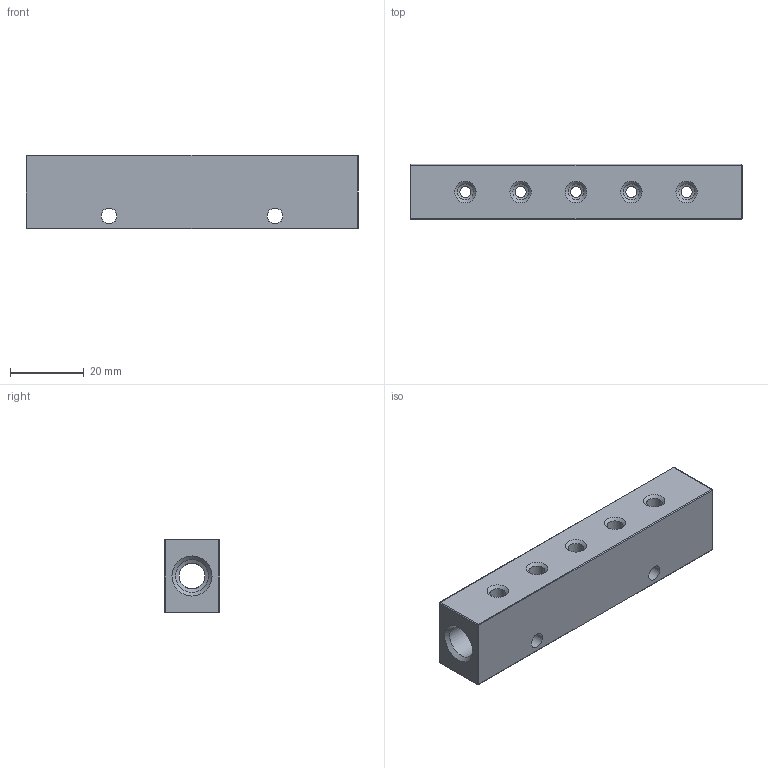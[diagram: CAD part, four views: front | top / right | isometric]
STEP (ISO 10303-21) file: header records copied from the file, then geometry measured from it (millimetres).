
FILE_DESCRIPTION(/* description */ (''),/* implementation_level */ '2;1');
FILE_NAME(/* name */ 'S:\_Tecnico\ArchivioUT\_Disegni3D ingombri\DISEGNI 3D per ingombri\RL\RL5218M555.stp',/* time_stamp */ '2020-02-20T14:30:38+01:00',/* author */ ('UfficioTecnico'),/* organization */ (''),/* preprocessor_version */ 'ST-DEVELOPER v18',/* originating_system */ 'Autodesk Inventor 2020',/* authorisation */ '');
FILE_SCHEMA (('AUTOMOTIVE_DESIGN { 1 0 10303 214 3 1 1 }'));
Length unit declared in the file: millimetre
Products named in the file (1): RL5118M505
Bounding box: 90 x 15 x 20 mm (x, y, z)
Volume: 21752.8 mm3; surface area: 9768.4 mm2
Topology: 1 solids, 1 shells, 75 faces, 193 edges, 120 vertices
Faces by surface type: cylinder 37, cone 24, sphere 8, plane 6
Full cylindrical faces by diameter (mm): 3 x10, 4.25 x2, 4.334 x10, 7 x1, 8.848 x2
Entity records: 2692 total; most frequent: CARTESIAN_POINT 729, DIRECTION 425, ORIENTED_EDGE 386, EDGE_CURVE 193, AXIS2_PLACEMENT_3D 176, VERTEX_POINT 120, EDGE_LOOP 101, CIRCLE 100
